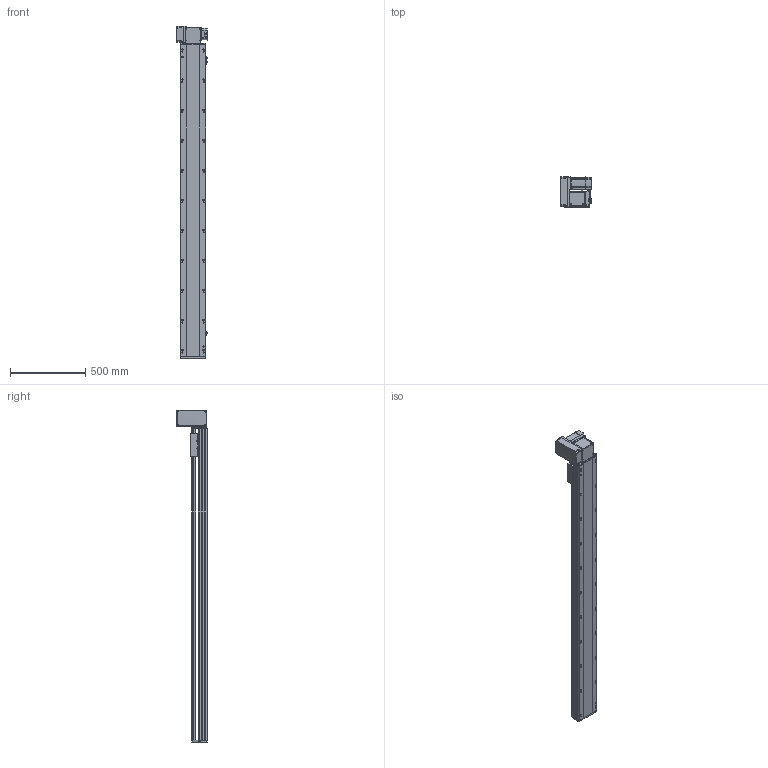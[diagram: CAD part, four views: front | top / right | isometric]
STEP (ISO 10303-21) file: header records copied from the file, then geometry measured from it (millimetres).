
FILE_DESCRIPTION (( 'STEP AP214' ), '1' );
FILE_NAME ('RTB17S-XX-1800-LW-M75-C4.STEP', '2025-12-12T01:09:18', ( '' ), ( '' ), 'SwSTEP 2.0', 'SolidWorks 2018', '' );
FILE_SCHEMA (( 'AUTOMOTIVE_DESIGN' ));
Length unit declared in the file: millimetre
Products named in the file (15): RTB17S-L-001-耜醱啣^RTB17S-XX-XX-LW-M75-C4; RTB17S-L-007奻裔^RTB17S-XX-XX-LW-M75-C4; RTB22S-GY-005P^RTB17S-LW-々湍釱蚾饜-750W_RTB17S-XX-XX-LW-M75-C4; RTB17S-L-014-T20-P75--々湍釱^RTB17S-LW-々湍釱蚾饜-750W_RTB17S-XX-XX-LW-M75-C4; RTB17S-LW-々湍釱蚾饜-750W^RTB17S-XX-XX-LW-M75-C4; EE672^RTB17S-XX-XX-LW-M75-C4; RTB22S-GY-008-M75--萇儂啣^RTB17S-LW-々湍釱蚾饜-750W_RTB17S-XX-XX-LW-M75-C4; RTB22S-GY-017P^RTB17S-LW-々湍釱蚾饜-750W_RTB17S-XX-XX-LW-M75-C4; RTB17S-L-004-賑釱^RTB17S-賑釱_RTB17S-XX-XX-LW-M75-C4; RTB17S-XX-1800-LW-M75-C4; RTB22S-GY-018P^RTB17S-LW-々湍釱蚾饜-750W_RTB17S-XX-XX-LW-M75-C4; 750W萇儂^RTB17S-XX-XX-LW-M75-C4; RTB17S-賑釱^RTB17S-XX-XX-LW-M75-C4; RTH13-BL-012覜茼え俋离^RTB17S-賑釱_RTB17S-XX-XX-LW-M75-C4; RTB17-R-011菁釱^RTB17S-XX-XX-LW-M75-C4
Assembly tree (17 placements, depth 3):
  RTB17S-XX-1800-LW-M75-C4
    RTB17-R-011菁釱^RTB17S-XX-XX-LW-M75-C4
    EE672^RTB17S-XX-XX-LW-M75-C4  x3
    RTB17S-L-001-耜醱啣^RTB17S-XX-XX-LW-M75-C4
    RTB17S-賑釱^RTB17S-XX-XX-LW-M75-C4
      RTB17S-L-004-賑釱^RTB17S-賑釱_RTB17S-XX-XX-LW-M75-C4
      RTH13-BL-012覜茼え俋离^RTB17S-賑釱_RTB17S-XX-XX-LW-M75-C4
    RTB17S-L-007奻裔^RTB17S-XX-XX-LW-M75-C4
    750W萇儂^RTB17S-XX-XX-LW-M75-C4
    RTB17S-LW-々湍釱蚾饜-750W^RTB17S-XX-XX-LW-M75-C4
      RTB17S-L-014-T20-P75--々湍釱^RTB17S-LW-々湍釱蚾饜-750W_RTB17S-XX-XX-LW-M75-C4
      RTB22S-GY-005P^RTB17S-LW-々湍釱蚾饜-750W_RTB17S-XX-XX-LW-M75-C4
      RTB22S-GY-017P^RTB17S-LW-々湍釱蚾饜-750W_RTB17S-XX-XX-LW-M75-C4  x2
      RTB22S-GY-008-M75--萇儂啣^RTB17S-LW-々湍釱蚾饜-750W_RTB17S-XX-XX-LW-M75-C4
      RTB22S-GY-018P^RTB17S-LW-々湍釱蚾饜-750W_RTB17S-XX-XX-LW-M75-C4
Bounding box: 210.4 x 201.5 x 2207.5 mm (x, y, z)
Volume: 17204687.3 mm3; surface area: 3052683.1 mm2
Topology: 17 solids, 17 shells, 2153 faces, 5998 edges, 3878 vertices
Faces by surface type: plane 978, cylinder 759, bspline 294, cone 110, sphere 8, torus 4
Entity records: 61174 total; most frequent: CARTESIAN_POINT 18062, ORIENTED_EDGE 8840, DIRECTION 8222, EDGE_CURVE 4420, AXIS2_PLACEMENT_3D 2898, VERTEX_POINT 2882, LINE 2426, VECTOR 2426
